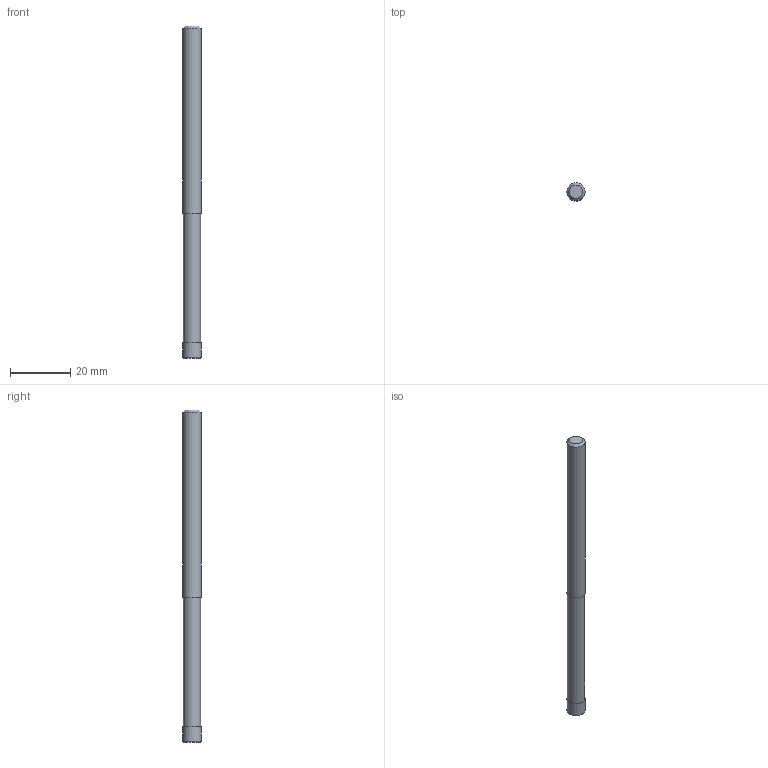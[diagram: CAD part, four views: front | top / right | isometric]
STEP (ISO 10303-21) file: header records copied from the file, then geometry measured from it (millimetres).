
FILE_DESCRIPTION((''),'2;1');
FILE_NAME('C:\Users\nsx150\AppData\Local\Temp\Mastercam 2021\3SYKECWX22\TEMP.step','2021-04-22T09:52:37',(''),(''),'STEP Write','Mastercam 2021 ... CNC Software, Inc.','');
FILE_SCHEMA(('AUTOMOTIVE_DESIGN'));
Length unit declared in the file: millimetre
Products named in the file (1): None
Bounding box: 6 x 6 x 110 mm (x, y, z)
Volume: 2985.8 mm3; surface area: 2133.9 mm2
Topology: 2 solids, 2 shells, 10 faces, 13 edges, 8 vertices
Faces by surface type: plane 5, cylinder 3, torus 1, cone 1
Full cylindrical faces by diameter (mm): 5.7 x1, 6 x2
Entity records: 232 total; most frequent: DIRECTION 40, CARTESIAN_POINT 28, AXIS2_PLACEMENT_3D 20, ORIENTED_EDGE 16, EDGE_LOOP 16, STYLED_ITEM 13, ADVANCED_FACE 10, FACE_BOUND 10
